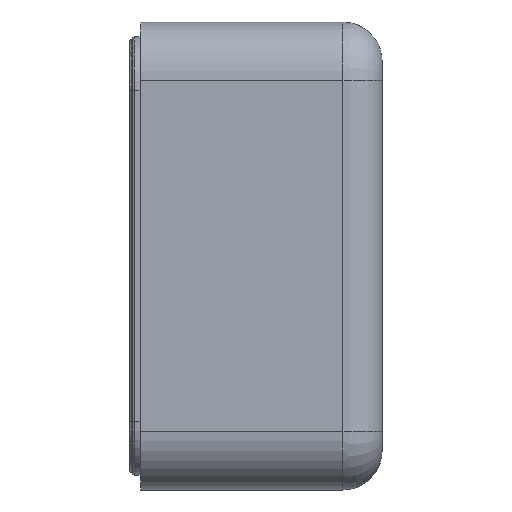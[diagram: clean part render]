
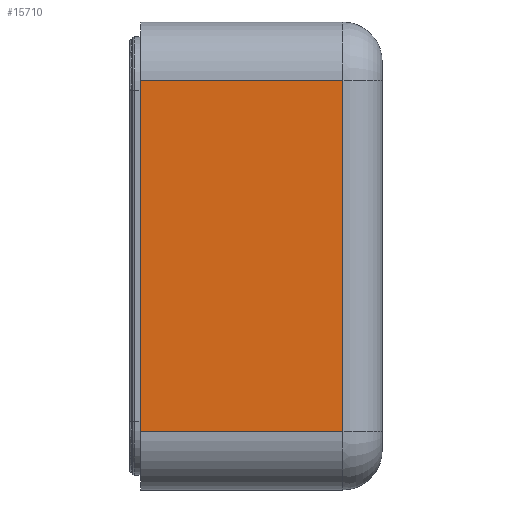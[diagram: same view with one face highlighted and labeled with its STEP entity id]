
A CAD part, left-side view. The second image highlights one B-rep face of the part: STEP entity #15710.
In plain terms, the highlighted planar face has unit normal (-1, 0, 0).
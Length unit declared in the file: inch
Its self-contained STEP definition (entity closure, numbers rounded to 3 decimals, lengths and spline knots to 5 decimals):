
#134 = ORIENTED_EDGE ( 'NONE', *, *, #29323, .T. ) ;
#760 = CARTESIAN_POINT ( 'NONE',  ( -4.23109, -13.68107, 2.23359 ) ) ;
#941 = CARTESIAN_POINT ( 'NONE',  ( -4.23109, 0., 2.23359 ) ) ;
#1428 = ORIENTED_EDGE ( 'NONE', *, *, #5238, .T. ) ;
#3343 = VERTEX_POINT ( 'NONE', #31208 ) ;
#4134 = EDGE_LOOP ( 'NONE', ( #1428, #20794, #134, #30059 ) ) ;
#4247 = PLANE ( 'NONE',  #49211 ) ;
#4635 = DIRECTION ( 'NONE',  ( 0., 0., 1. ) ) ;
#5238 = EDGE_CURVE ( 'NONE', #45163, #6912, #18435, .T. ) ;
#6912 = VERTEX_POINT ( 'NONE', #46585 ) ;
#8864 = DIRECTION ( 'NONE',  ( 0., 0., 1. ) ) ;
#9744 = LINE ( 'NONE', #28090, #10993 ) ;
#10993 = VECTOR ( 'NONE', #4635, 39.37008 ) ;
#15710 = ADVANCED_FACE ( 'NONE', ( #43206 ), #4247, .T. ) ;
#16830 = LINE ( 'NONE', #760, #40079 ) ;
#18222 = LINE ( 'NONE', #40015, #48205 ) ;
#18334 = DIRECTION ( 'NONE',  ( 0., -1., 0. ) ) ;
#18435 = LINE ( 'NONE', #45702, #49631 ) ;
#19955 = DIRECTION ( 'NONE',  ( -1., 0., 0. ) ) ;
#20794 = ORIENTED_EDGE ( 'NONE', *, *, #42365, .T. ) ;
#20913 = EDGE_CURVE ( 'NONE', #45163, #23309, #9744, .T. ) ;
#23309 = VERTEX_POINT ( 'NONE', #941 ) ;
#28090 = CARTESIAN_POINT ( 'NONE',  ( -4.23109, 0., -2.98359 ) ) ;
#28137 = DIRECTION ( 'NONE',  ( 0., 1., 0. ) ) ;
#29323 = EDGE_CURVE ( 'NONE', #3343, #23309, #16830, .T. ) ;
#30059 = ORIENTED_EDGE ( 'NONE', *, *, #20913, .F. ) ;
#31208 = CARTESIAN_POINT ( 'NONE',  ( -4.23109, -2.57655, 2.23359 ) ) ;
#35541 = CARTESIAN_POINT ( 'NONE',  ( -4.23109, -13.68107, -2.98359 ) ) ;
#40015 = CARTESIAN_POINT ( 'NONE',  ( -4.23109, -2.57655, -2.98359 ) ) ;
#40079 = VECTOR ( 'NONE', #28137, 39.37008 ) ;
#42365 = EDGE_CURVE ( 'NONE', #6912, #3343, #18222, .T. ) ;
#42465 = CARTESIAN_POINT ( 'NONE',  ( -4.23109, 0., -2.23359 ) ) ;
#43206 = FACE_OUTER_BOUND ( 'NONE', #4134, .T. ) ;
#45163 = VERTEX_POINT ( 'NONE', #42465 ) ;
#45702 = CARTESIAN_POINT ( 'NONE',  ( -4.23109, -13.68107, -2.23359 ) ) ;
#46585 = CARTESIAN_POINT ( 'NONE',  ( -4.23109, -2.57655, -2.23359 ) ) ;
#47333 = DIRECTION ( 'NONE',  ( 0., 0., 1. ) ) ;
#48205 = VECTOR ( 'NONE', #8864, 39.37008 ) ;
#49211 = AXIS2_PLACEMENT_3D ( 'NONE', #35541, #19955, #47333 ) ;
#49631 = VECTOR ( 'NONE', #18334, 39.37008 ) ;
